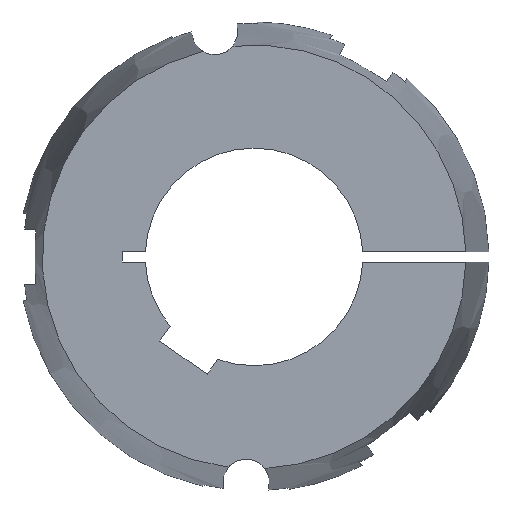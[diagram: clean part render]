
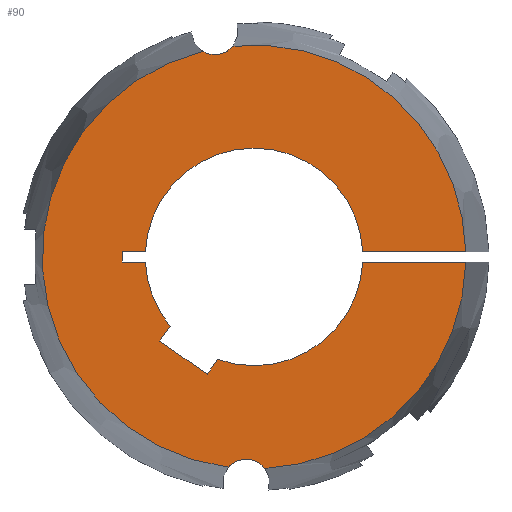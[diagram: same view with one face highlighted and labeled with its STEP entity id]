
A CAD part, left-side view. The second image highlights one B-rep face of the part: STEP entity #90.
In plain terms, the highlighted planar face has unit normal (-1, 0, 0).
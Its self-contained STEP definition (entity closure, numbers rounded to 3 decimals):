
#90 = ADVANCED_FACE( '', ( #140 ), #141, .F. );
#140 = FACE_OUTER_BOUND( '', #208, .T. );
#141 = PLANE( '', #209 );
#208 = EDGE_LOOP( '', ( #369, #370, #371, #372, #373, #374, #375, #376, #377, #378, #379, #380, #381, #382, #383, #384 ) );
#209 = AXIS2_PLACEMENT_3D( '', #385, #386, #387 );
#369 = ORIENTED_EDGE( '', *, *, #548, .F. );
#370 = ORIENTED_EDGE( '', *, *, #601, .F. );
#371 = ORIENTED_EDGE( '', *, *, #570, .T. );
#372 = ORIENTED_EDGE( '', *, *, #583, .T. );
#373 = ORIENTED_EDGE( '', *, *, #581, .T. );
#374 = ORIENTED_EDGE( '', *, *, #578, .T. );
#375 = ORIENTED_EDGE( '', *, *, #587, .T. );
#376 = ORIENTED_EDGE( '', *, *, #602, .T. );
#377 = ORIENTED_EDGE( '', *, *, #603, .T. );
#378 = ORIENTED_EDGE( '', *, *, #604, .T. );
#379 = ORIENTED_EDGE( '', *, *, #605, .T. );
#380 = ORIENTED_EDGE( '', *, *, #606, .T. );
#381 = ORIENTED_EDGE( '', *, *, #572, .T. );
#382 = ORIENTED_EDGE( '', *, *, #607, .F. );
#383 = ORIENTED_EDGE( '', *, *, #551, .F. );
#384 = ORIENTED_EDGE( '', *, *, #608, .F. );
#385 = CARTESIAN_POINT( '', ( -114., 0., 0. ) );
#386 = DIRECTION( '', ( 1., 0., 0. ) );
#387 = DIRECTION( '', ( 0., 1., 0. ) );
#548 = EDGE_CURVE( '', #649, #651, #652, .F. );
#551 = EDGE_CURVE( '', #655, #657, #658, .F. );
#570 = EDGE_CURVE( '', #693, #691, #694, .T. );
#572 = EDGE_CURVE( '', #696, #697, #698, .T. );
#578 = EDGE_CURVE( '', #709, #707, #710, .T. );
#581 = EDGE_CURVE( '', #714, #709, #715, .T. );
#583 = EDGE_CURVE( '', #691, #714, #717, .T. );
#587 = EDGE_CURVE( '', #707, #721, #723, .T. );
#601 = EDGE_CURVE( '', #693, #649, #745, .T. );
#602 = EDGE_CURVE( '', #721, #746, #747, .T. );
#603 = EDGE_CURVE( '', #746, #748, #749, .T. );
#604 = EDGE_CURVE( '', #748, #750, #751, .T. );
#605 = EDGE_CURVE( '', #750, #752, #753, .T. );
#606 = EDGE_CURVE( '', #752, #696, #754, .T. );
#607 = EDGE_CURVE( '', #657, #697, #755, .T. );
#608 = EDGE_CURVE( '', #651, #655, #756, .T. );
#649 = VERTEX_POINT( '', #815 );
#651 = VERTEX_POINT( '', #826 );
#652 = CIRCLE( '', #827, 8.125 );
#655 = VERTEX_POINT( '', #839 );
#657 = VERTEX_POINT( '', #852 );
#658 = CIRCLE( '', #853, 8.125 );
#691 = VERTEX_POINT( '', #920 );
#693 = VERTEX_POINT( '', #923 );
#694 = LINE( '', #924, #925 );
#696 = VERTEX_POINT( '', #933 );
#697 = VERTEX_POINT( '', #934 );
#698 = LINE( '', #935, #936 );
#707 = VERTEX_POINT( '', #954 );
#709 = VERTEX_POINT( '', #957 );
#710 = LINE( '', #958, #959 );
#714 = VERTEX_POINT( '', #965 );
#715 = LINE( '', #966, #967 );
#717 = CIRCLE( '', #970, 37.5 );
#721 = VERTEX_POINT( '', #975 );
#723 = LINE( '', #978, #979 );
#745 = CIRCLE( '', #1004, 73.028 );
#746 = VERTEX_POINT( '', #1005 );
#747 = CIRCLE( '', #1006, 37.5 );
#748 = VERTEX_POINT( '', #1007 );
#749 = LINE( '', #1008, #1009 );
#750 = VERTEX_POINT( '', #1010 );
#751 = LINE( '', #1011, #1012 );
#752 = VERTEX_POINT( '', #1013 );
#753 = LINE( '', #1014, #1015 );
#754 = CIRCLE( '', #1016, 37.5 );
#755 = CIRCLE( '', #1017, 73.028 );
#756 = CIRCLE( '', #1018, 73.028 );
#815 = CARTESIAN_POINT( '', ( -114., -3.751, -72.932 ) );
#826 = CARTESIAN_POINT( '', ( -114., 8.826, -72.493 ) );
#827 = AXIS2_PLACEMENT_3D( '', #1192, #1193, #1194 );
#839 = CARTESIAN_POINT( '', ( -114., 17.661, 70.861 ) );
#852 = CARTESIAN_POINT( '', ( -114., 7.262, 72.666 ) );
#853 = AXIS2_PLACEMENT_3D( '', #1195, #1196, #1197 );
#920 = CARTESIAN_POINT( '', ( -114., -37.459, -1.75 ) );
#923 = CARTESIAN_POINT( '', ( -114., -73.007, -1.75 ) );
#924 = CARTESIAN_POINT( '', ( -114., -81., -1.75 ) );
#925 = VECTOR( '', #1227, 1000. );
#933 = CARTESIAN_POINT( '', ( -114., -37.459, 1.75 ) );
#934 = CARTESIAN_POINT( '', ( -114., -73.007, 1.75 ) );
#935 = CARTESIAN_POINT( '', ( -114., 0., 1.75 ) );
#936 = VECTOR( '', #1228, 1000. );
#954 = CARTESIAN_POINT( '', ( -114., 32.511, -28.996 ) );
#957 = CARTESIAN_POINT( '', ( -114., 16.128, -40.468 ) );
#958 = CARTESIAN_POINT( '', ( -114., 16.128, -40.468 ) );
#959 = VECTOR( '', #1233, 1000. );
#965 = CARTESIAN_POINT( '', ( -114., 12.539, -35.342 ) );
#966 = CARTESIAN_POINT( '', ( -114., 12.539, -35.342 ) );
#967 = VECTOR( '', #1236, 1000. );
#970 = AXIS2_PLACEMENT_3D( '', #1238, #1239, #1240 );
#975 = CARTESIAN_POINT( '', ( -114., 28.922, -23.87 ) );
#978 = CARTESIAN_POINT( '', ( -114., 32.511, -28.996 ) );
#979 = VECTOR( '', #1246, 1000. );
#1004 = AXIS2_PLACEMENT_3D( '', #1280, #1281, #1282 );
#1005 = CARTESIAN_POINT( '', ( -114., 37.459, -1.75 ) );
#1006 = AXIS2_PLACEMENT_3D( '', #1283, #1284, #1285 );
#1007 = CARTESIAN_POINT( '', ( -114., 45.5, -1.75 ) );
#1008 = CARTESIAN_POINT( '', ( -114., 0., -1.75 ) );
#1009 = VECTOR( '', #1286, 1000. );
#1010 = CARTESIAN_POINT( '', ( -114., 45.5, 1.75 ) );
#1011 = CARTESIAN_POINT( '', ( -114., 45.5, -1.75 ) );
#1012 = VECTOR( '', #1287, 1000. );
#1013 = CARTESIAN_POINT( '', ( -114., 37.459, 1.75 ) );
#1014 = CARTESIAN_POINT( '', ( -114., 45.5, 1.75 ) );
#1015 = VECTOR( '', #1288, 1000. );
#1016 = AXIS2_PLACEMENT_3D( '', #1289, #1290, #1291 );
#1017 = AXIS2_PLACEMENT_3D( '', #1292, #1293, #1294 );
#1018 = AXIS2_PLACEMENT_3D( '', #1295, #1296, #1297 );
#1192 = CARTESIAN_POINT( '', ( -114., 2.717, -77.85 ) );
#1193 = DIRECTION( '', ( 1., 0., 0. ) );
#1194 = DIRECTION( '', ( 0., 1., 0. ) );
#1195 = CARTESIAN_POINT( '', ( -114., 13.519, 77.85 ) );
#1196 = DIRECTION( '', ( 1., 0., 0. ) );
#1197 = DIRECTION( '', ( 0., 1., 0. ) );
#1227 = DIRECTION( '', ( 0., 1., 0. ) );
#1228 = DIRECTION( '', ( 0., -1., 0. ) );
#1233 = DIRECTION( '', ( 0., 0.819, 0.574 ) );
#1236 = DIRECTION( '', ( 0., 0.574, -0.819 ) );
#1238 = CARTESIAN_POINT( '', ( -114., 0., 0. ) );
#1239 = DIRECTION( '', ( 1., 0., 0. ) );
#1240 = DIRECTION( '', ( 0., 0., -1. ) );
#1246 = DIRECTION( '', ( 0., -0.574, 0.819 ) );
#1280 = CARTESIAN_POINT( '', ( -114., 0., 0. ) );
#1281 = DIRECTION( '', ( 1., 0., 0. ) );
#1282 = DIRECTION( '', ( 0., 1., 0. ) );
#1283 = CARTESIAN_POINT( '', ( -114., 0., 0. ) );
#1284 = DIRECTION( '', ( 1., 0., 0. ) );
#1285 = DIRECTION( '', ( 0., 0., -1. ) );
#1286 = DIRECTION( '', ( 0., 1., 0. ) );
#1287 = DIRECTION( '', ( 0., 0., 1. ) );
#1288 = DIRECTION( '', ( 0., -1., 0. ) );
#1289 = CARTESIAN_POINT( '', ( -114., 0., 0. ) );
#1290 = DIRECTION( '', ( 1., 0., 0. ) );
#1291 = DIRECTION( '', ( 0., 0., -1. ) );
#1292 = CARTESIAN_POINT( '', ( -114., 0., 0. ) );
#1293 = DIRECTION( '', ( 1., 0., 0. ) );
#1294 = DIRECTION( '', ( 0., 1., 0. ) );
#1295 = CARTESIAN_POINT( '', ( -114., 0., 0. ) );
#1296 = DIRECTION( '', ( 1., 0., 0. ) );
#1297 = DIRECTION( '', ( 0., 1., 0. ) );
